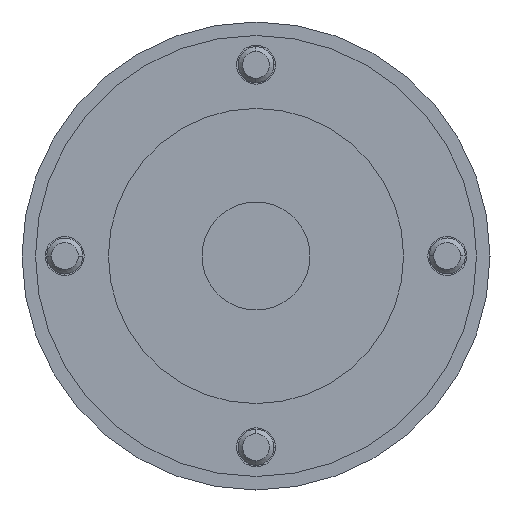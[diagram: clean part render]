
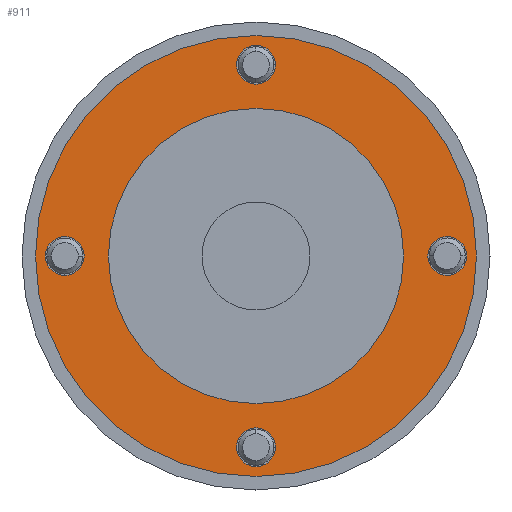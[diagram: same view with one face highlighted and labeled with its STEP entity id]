
A CAD part, left-side view. The second image highlights one B-rep face of the part: STEP entity #911.
In plain terms, the highlighted planar face has unit normal (-1, 0, 0).
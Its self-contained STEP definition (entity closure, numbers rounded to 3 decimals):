
#77 = VERTEX_POINT ( 'NONE', #1753 ) ;
#80 = VERTEX_POINT ( 'NONE', #1719 ) ;
#124 = VERTEX_POINT ( 'NONE', #1820 ) ;
#139 = VERTEX_POINT ( 'NONE', #1883 ) ;
#141 = VERTEX_POINT ( 'NONE', #1877 ) ;
#146 = EDGE_CURVE ( 'NONE', #124, #139, #1869, .T. ) ;
#147 = VERTEX_POINT ( 'NONE', #1865 ) ;
#197 = EDGE_CURVE ( 'NONE', #77, #80, #4064, .T. ) ;
#217 = EDGE_CURVE ( 'NONE', #141, #147, #3996, .T. ) ;
#249 = VERTEX_POINT ( 'NONE', #3906 ) ;
#250 = VERTEX_POINT ( 'NONE', #3947 ) ;
#256 = EDGE_CURVE ( 'NONE', #249, #250, #3904, .T. ) ;
#362 = VERTEX_POINT ( 'NONE', #2368 ) ;
#367 = VERTEX_POINT ( 'NONE', #2351 ) ;
#370 = EDGE_CURVE ( 'NONE', #362, #367, #2350, .T. ) ;
#478 = VERTEX_POINT ( 'NONE', #2551 ) ;
#479 = VERTEX_POINT ( 'NONE', #2553 ) ;
#514 = EDGE_CURVE ( 'NONE', #478, #479, #2589, .T. ) ;
#566 = EDGE_CURVE ( 'NONE', #479, #478, #2806, .T. ) ;
#754 = ORIENTED_EDGE ( 'NONE', *, *, #370, .F. ) ;
#756 = ORIENTED_EDGE ( 'NONE', *, *, #514, .T. ) ;
#758 = ORIENTED_EDGE ( 'NONE', *, *, #907, .F. ) ;
#759 = EDGE_CURVE ( 'NONE', #250, #249, #3289, .T. ) ;
#760 = ORIENTED_EDGE ( 'NONE', *, *, #566, .T. ) ;
#761 = EDGE_LOOP ( 'NONE', ( #760, #756 ) ) ;
#889 = ORIENTED_EDGE ( 'NONE', *, *, #912, .T. ) ;
#899 = ORIENTED_EDGE ( 'NONE', *, *, #256, .T. ) ;
#902 = ORIENTED_EDGE ( 'NONE', *, *, #146, .T. ) ;
#903 = EDGE_LOOP ( 'NONE', ( #908, #902 ) ) ;
#906 = EDGE_LOOP ( 'NONE', ( #917, #899 ) ) ;
#907 = EDGE_CURVE ( 'NONE', #367, #362, #3551, .T. ) ;
#908 = ORIENTED_EDGE ( 'NONE', *, *, #914, .T. ) ;
#910 = EDGE_LOOP ( 'NONE', ( #889, #916 ) ) ;
#911 = ADVANCED_FACE ( 'NONE', ( #3640, #3639, #3641, #3635, #3634, #3588 ), #3644, .F. ) ;
#912 = EDGE_CURVE ( 'NONE', #147, #141, #3632, .T. ) ;
#913 = EDGE_LOOP ( 'NONE', ( #915, #919 ) ) ;
#914 = EDGE_CURVE ( 'NONE', #139, #124, #3630, .T. ) ;
#915 = ORIENTED_EDGE ( 'NONE', *, *, #918, .T. ) ;
#916 = ORIENTED_EDGE ( 'NONE', *, *, #217, .T. ) ;
#917 = ORIENTED_EDGE ( 'NONE', *, *, #759, .T. ) ;
#918 = EDGE_CURVE ( 'NONE', #80, #77, #3614, .T. ) ;
#919 = ORIENTED_EDGE ( 'NONE', *, *, #197, .T. ) ;
#920 = EDGE_LOOP ( 'NONE', ( #758, #754 ) ) ;
#1719 = CARTESIAN_POINT ( 'NONE',  ( 2., -21.25, -2.15 ) ) ;
#1753 = CARTESIAN_POINT ( 'NONE',  ( 2., -21.25, 2.15 ) ) ;
#1820 = CARTESIAN_POINT ( 'NONE',  ( 2., 21.25, 2.15 ) ) ;
#1862 = DIRECTION ( 'NONE',  ( 0., 0., -1. ) ) ;
#1863 = DIRECTION ( 'NONE',  ( 1., 0., 0. ) ) ;
#1864 = CARTESIAN_POINT ( 'NONE',  ( 2., 21.25, 0. ) ) ;
#1865 = CARTESIAN_POINT ( 'NONE',  ( 2., 0., -23.4 ) ) ;
#1869 = CIRCLE ( 'NONE', #1873, 2.15 ) ;
#1873 = AXIS2_PLACEMENT_3D ( 'NONE', #1864, #1863, #1862 ) ;
#1877 = CARTESIAN_POINT ( 'NONE',  ( 2., 0., -19.1 ) ) ;
#1883 = CARTESIAN_POINT ( 'NONE',  ( 2., 21.25, -2.15 ) ) ;
#2339 = DIRECTION ( 'NONE',  ( 0., 0., 1. ) ) ;
#2340 = DIRECTION ( 'NONE',  ( -1., 0., 0. ) ) ;
#2347 = CARTESIAN_POINT ( 'NONE',  ( 2., 0., 0. ) ) ;
#2350 = CIRCLE ( 'NONE', #2352, 16.4 ) ;
#2351 = CARTESIAN_POINT ( 'NONE',  ( 2., 0., 16.4 ) ) ;
#2352 = AXIS2_PLACEMENT_3D ( 'NONE', #2347, #2340, #2339 ) ;
#2368 = CARTESIAN_POINT ( 'NONE',  ( 2., 0., -16.4 ) ) ;
#2551 = CARTESIAN_POINT ( 'NONE',  ( 2., 0., -24.5 ) ) ;
#2553 = CARTESIAN_POINT ( 'NONE',  ( 2., 0., 24.5 ) ) ;
#2589 = CIRCLE ( 'NONE', #2711, 24.5 ) ;
#2686 = DIRECTION ( 'NONE',  ( 0., 0., 1. ) ) ;
#2711 = AXIS2_PLACEMENT_3D ( 'NONE', #2719, #2715, #2686 ) ;
#2715 = DIRECTION ( 'NONE',  ( -1., 0., 0. ) ) ;
#2719 = CARTESIAN_POINT ( 'NONE',  ( 2., 0., 0. ) ) ;
#2802 = DIRECTION ( 'NONE',  ( 0., 0., 1. ) ) ;
#2803 = DIRECTION ( 'NONE',  ( -1., 0., 0. ) ) ;
#2804 = CARTESIAN_POINT ( 'NONE',  ( 2., 0., 0. ) ) ;
#2805 = AXIS2_PLACEMENT_3D ( 'NONE', #2804, #2803, #2802 ) ;
#2806 = CIRCLE ( 'NONE', #2805, 24.5 ) ;
#3279 = CARTESIAN_POINT ( 'NONE',  ( 2., 0., 21.25 ) ) ;
#3286 = DIRECTION ( 'NONE',  ( 0., 0., -1. ) ) ;
#3287 = DIRECTION ( 'NONE',  ( 1., 0., 0. ) ) ;
#3288 = AXIS2_PLACEMENT_3D ( 'NONE', #3279, #3287, #3286 ) ;
#3289 = CIRCLE ( 'NONE', #3288, 2.15 ) ;
#3462 = DIRECTION ( 'NONE',  ( 0., 0., -1. ) ) ;
#3463 = AXIS2_PLACEMENT_3D ( 'NONE', #3619, #3629, #3462 ) ;
#3551 = CIRCLE ( 'NONE', #3638, 16.4 ) ;
#3581 = AXIS2_PLACEMENT_3D ( 'NONE', #3645, #3628, #3627 ) ;
#3588 = FACE_OUTER_BOUND ( 'NONE', #761, .T. ) ;
#3614 = CIRCLE ( 'NONE', #3463, 2.15 ) ;
#3615 = DIRECTION ( 'NONE',  ( 0., 0., -1. ) ) ;
#3616 = DIRECTION ( 'NONE',  ( 1., 0., 0. ) ) ;
#3617 = CARTESIAN_POINT ( 'NONE',  ( 2., 21.25, 0. ) ) ;
#3618 = AXIS2_PLACEMENT_3D ( 'NONE', #3617, #3616, #3615 ) ;
#3619 = CARTESIAN_POINT ( 'NONE',  ( 2., -21.25, 0. ) ) ;
#3622 = DIRECTION ( 'NONE',  ( 0., 0., -1. ) ) ;
#3623 = DIRECTION ( 'NONE',  ( 1., 0., 0. ) ) ;
#3624 = CARTESIAN_POINT ( 'NONE',  ( 2., 0., -21.25 ) ) ;
#3627 = DIRECTION ( 'NONE',  ( 0., 0., -1. ) ) ;
#3628 = DIRECTION ( 'NONE',  ( 1., 0., 0. ) ) ;
#3629 = DIRECTION ( 'NONE',  ( 1., 0., 0. ) ) ;
#3630 = CIRCLE ( 'NONE', #3618, 2.15 ) ;
#3631 = AXIS2_PLACEMENT_3D ( 'NONE', #3624, #3623, #3622 ) ;
#3632 = CIRCLE ( 'NONE', #3631, 2.15 ) ;
#3634 = FACE_BOUND ( 'NONE', #920, .T. ) ;
#3635 = FACE_BOUND ( 'NONE', #906, .T. ) ;
#3636 = DIRECTION ( 'NONE',  ( 0., 0., 1. ) ) ;
#3637 = DIRECTION ( 'NONE',  ( -1., 0., 0. ) ) ;
#3638 = AXIS2_PLACEMENT_3D ( 'NONE', #3643, #3637, #3636 ) ;
#3639 = FACE_BOUND ( 'NONE', #910, .T. ) ;
#3640 = FACE_BOUND ( 'NONE', #903, .T. ) ;
#3641 = FACE_BOUND ( 'NONE', #913, .T. ) ;
#3643 = CARTESIAN_POINT ( 'NONE',  ( 2., 0., 0. ) ) ;
#3644 = PLANE ( 'NONE',  #3581 ) ;
#3645 = CARTESIAN_POINT ( 'NONE',  ( 2., 24.5, 0. ) ) ;
#3883 = DIRECTION ( 'NONE',  ( 0., 0., -1. ) ) ;
#3884 = DIRECTION ( 'NONE',  ( 1., 0., 0. ) ) ;
#3885 = CARTESIAN_POINT ( 'NONE',  ( 2., 0., 21.25 ) ) ;
#3888 = AXIS2_PLACEMENT_3D ( 'NONE', #3885, #3884, #3883 ) ;
#3904 = CIRCLE ( 'NONE', #3888, 2.15 ) ;
#3906 = CARTESIAN_POINT ( 'NONE',  ( 2., 0., 23.4 ) ) ;
#3947 = CARTESIAN_POINT ( 'NONE',  ( 2., 0., 19.1 ) ) ;
#3972 = DIRECTION ( 'NONE',  ( 0., 0., -1. ) ) ;
#3973 = DIRECTION ( 'NONE',  ( 1., 0., 0. ) ) ;
#3977 = CARTESIAN_POINT ( 'NONE',  ( 2., 0., -21.25 ) ) ;
#3987 = AXIS2_PLACEMENT_3D ( 'NONE', #3977, #3973, #3972 ) ;
#3996 = CIRCLE ( 'NONE', #3987, 2.15 ) ;
#4029 = DIRECTION ( 'NONE',  ( 0., 0., -1. ) ) ;
#4030 = DIRECTION ( 'NONE',  ( 1., 0., 0. ) ) ;
#4033 = CARTESIAN_POINT ( 'NONE',  ( 2., -21.25, 0. ) ) ;
#4036 = AXIS2_PLACEMENT_3D ( 'NONE', #4033, #4030, #4029 ) ;
#4064 = CIRCLE ( 'NONE', #4036, 2.15 ) ;
